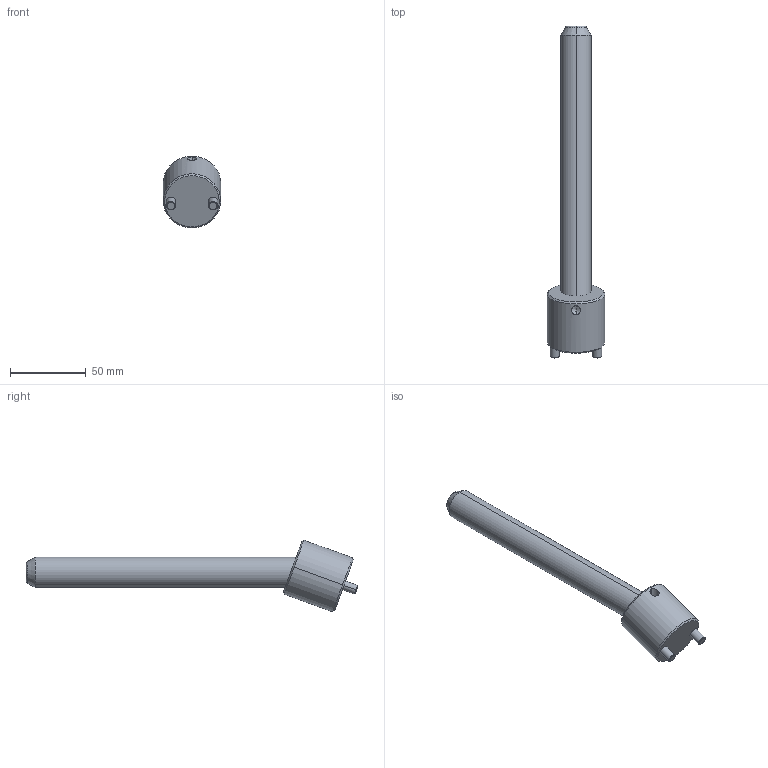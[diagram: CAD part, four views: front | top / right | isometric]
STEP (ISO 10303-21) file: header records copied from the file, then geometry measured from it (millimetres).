
FILE_DESCRIPTION(('CATIA V5 STEP Exchange'),'2;1');
FILE_NAME('C:\Users\Raffaele\Desktop\3D BOLEX\3D FILES CF BOLEX\19-INCLINED ASSEMBLY REF_CI\CI2020175.stp','2019-06-24T06:43:08+00:00',('none'),('none'),'CATIA Version 5 Release 20 GA (IN-10)','CATIA V5 STEP AP203','none');
FILE_SCHEMA(('CONFIG_CONTROL_DESIGN'));
Length unit declared in the file: millimetre
Products named in the file (1): CI2020175
Assembly tree (2 placements, depth 2):
  CI2020175
    #58
    #572
Bounding box: 38 x 219.51 x 47.34 mm (x, y, z)
Volume: 95109.5 mm3; surface area: 22124.9 mm2
Topology: 2 solids, 2 shells, 39 faces, 82 edges, 47 vertices
Faces by surface type: cone 14, cylinder 14, plane 7, torus 4
Entity records: 1515 total; most frequent: CARTESIAN_POINT 658, ORIENTED_EDGE 160, DIRECTION 144, EDGE_CURVE 80, AXIS2_PLACEMENT_3D 71, VERTEX_POINT 47, EDGE_LOOP 43, ADVANCED_FACE 39
